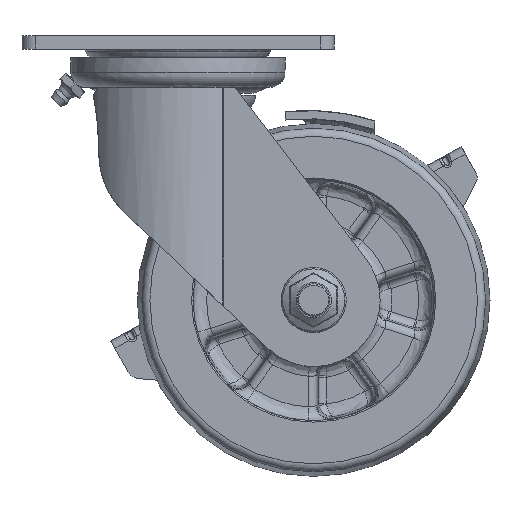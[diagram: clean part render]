
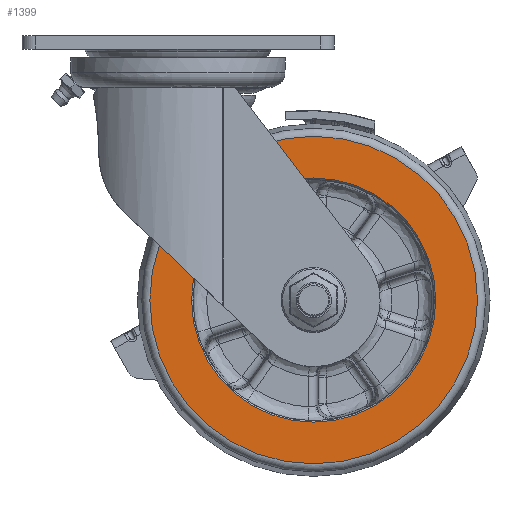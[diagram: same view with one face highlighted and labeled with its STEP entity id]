
A CAD part, front view. The second image highlights one B-rep face of the part: STEP entity #1399.
In plain terms, the highlighted planar face has unit normal (0, -1, 0).
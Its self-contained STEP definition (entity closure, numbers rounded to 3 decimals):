
#180=CARTESIAN_POINT('',(321.269,92.759,-200.645));
#181=VERTEX_POINT('',#180);
#182=CARTESIAN_POINT('',(260.895,92.759,-200.645));
#183=DIRECTION('',(0.0,1.0,0.0));
#184=DIRECTION('',(-1.0,0.0,0.0));
#185=AXIS2_PLACEMENT_3D('',#182,#183,#184);
#186=CIRCLE('',#185,60.373);
#187=EDGE_CURVE('',#181,#181,#186,.T.);
#1050=CARTESIAN_POINT('',(215.895,92.759,-200.645));
#1051=VERTEX_POINT('',#1050);
#1052=CARTESIAN_POINT('',(260.895,92.759,-200.645));
#1053=DIRECTION('',(0.0,-1.0,0.0));
#1054=DIRECTION('',(1.0,0.0,0.0));
#1055=AXIS2_PLACEMENT_3D('',#1052,#1053,#1054);
#1056=CIRCLE('',#1055,45.);
#1057=EDGE_CURVE('',#1051,#1051,#1056,.T.);
#1388=CARTESIAN_POINT('',(213.395,92.759,-200.645));
#1389=DIRECTION('',(0.0,-1.0,0.0));
#1390=DIRECTION('',(0.0,0.0,-1.0));
#1391=AXIS2_PLACEMENT_3D('',#1388,#1389,#1390);
#1392=PLANE('',#1391);
#1393=ORIENTED_EDGE('',*,*,#187,.F.);
#1394=EDGE_LOOP('',(#1393));
#1395=FACE_OUTER_BOUND('',#1394,.T.);
#1396=ORIENTED_EDGE('',*,*,#1057,.F.);
#1397=EDGE_LOOP('',(#1396));
#1398=FACE_BOUND('',#1397,.T.);
#1399=ADVANCED_FACE('',(#1395,#1398),#1392,.T.);
